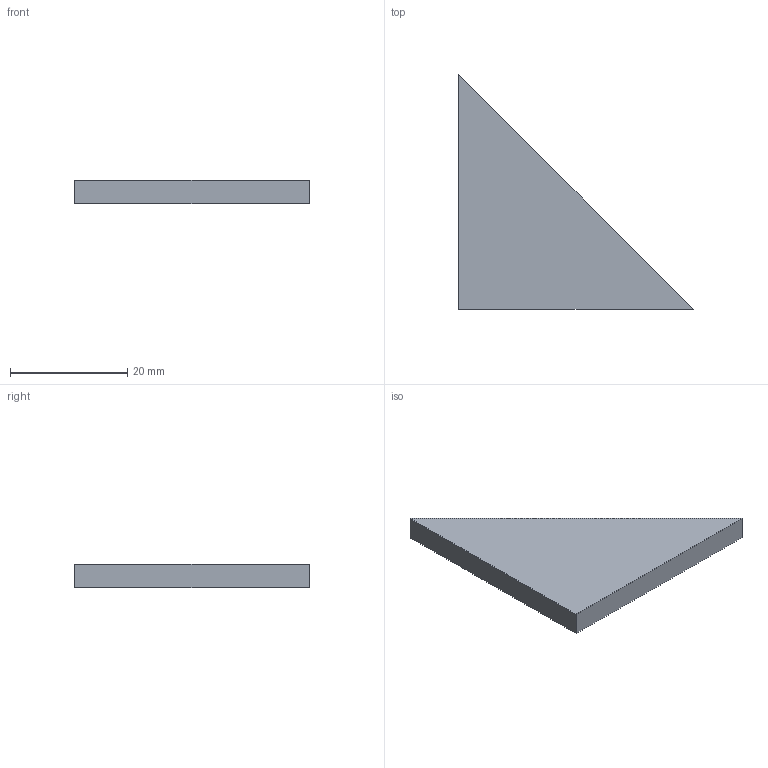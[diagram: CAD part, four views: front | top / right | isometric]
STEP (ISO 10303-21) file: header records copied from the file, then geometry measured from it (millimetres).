
FILE_DESCRIPTION (( 'STEP AP203' ), '1' );
FILE_NAME ('Dreieick_verstärkung.STEP', '2026-04-21T19:35:43', ( '' ), ( '' ), 'SwSTEP 2.0', 'SolidWorks 2025', '' );
FILE_SCHEMA (( 'CONFIG_CONTROL_DESIGN' ));
Length unit declared in the file: millimetre
Products named in the file (1): Dreieick_verstärkung
Bounding box: 40 x 40 x 4 mm (x, y, z)
Volume: 3200 mm3; surface area: 2146.3 mm2
Topology: 1 solids, 1 shells, 5 faces, 9 edges, 6 vertices
Faces by surface type: plane 5
Entity records: 200 total; most frequent: DIRECTION 21, CARTESIAN_POINT 21, ORIENTED_EDGE 18, VECTOR 9, LINE 9, EDGE_CURVE 9, PERSON_AND_ORGANIZATION 8, AXIS2_PLACEMENT_3D 6
